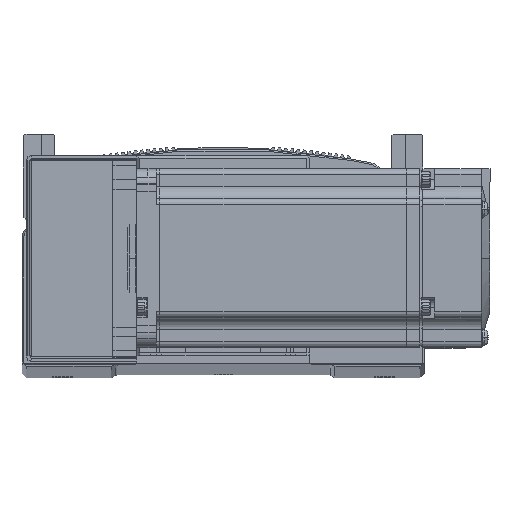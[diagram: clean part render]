
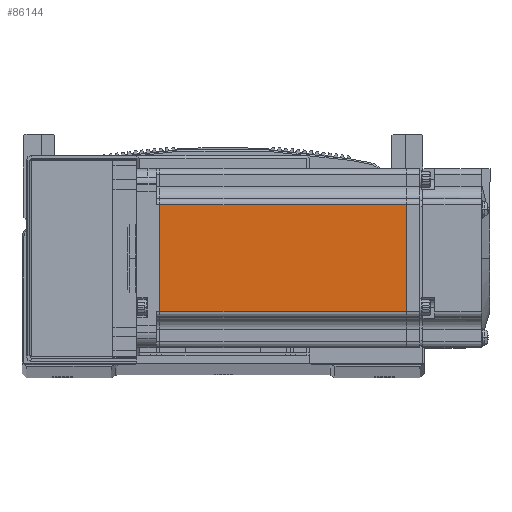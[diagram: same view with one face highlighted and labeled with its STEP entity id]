
A CAD part, top view. The second image highlights one B-rep face of the part: STEP entity #86144.
In plain terms, the highlighted planar face has unit normal (0, 0, 1) as drawn and (0, 0, -1) by its records, which use the part's own axes.
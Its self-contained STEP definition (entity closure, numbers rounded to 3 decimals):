
#2224 = AXIS2_PLACEMENT_3D ( 'NONE', #76338, #76151, #76155 ) ;
#6282 = CARTESIAN_POINT ( 'NONE',  ( -7.75, 25., -30. ) ) ;
#6350 = DIRECTION ( 'NONE',  ( 0., -1., 0. ) ) ;
#6522 = DIRECTION ( 'NONE',  ( -1., 0., 0. ) ) ;
#6539 = CARTESIAN_POINT ( 'NONE',  ( -6.5, -18., -30. ) ) ;
#7706 = VECTOR ( 'NONE', #6522, 1000. ) ;
#7708 = LINE ( 'NONE', #6539, #7706 ) ;
#7747 = LINE ( 'NONE', #6282, #7759 ) ;
#7759 = VECTOR ( 'NONE', #6350, 1000. ) ;
#7783 = LINE ( 'NONE', #73507, #7807 ) ;
#7807 = VECTOR ( 'NONE', #73584, 1000. ) ;
#7819 = VECTOR ( 'NONE', #73525, 1000. ) ;
#7823 = LINE ( 'NONE', #73619, #7819 ) ;
#9127 = EDGE_LOOP ( 'NONE', ( #45394, #45403, #45351, #45358 ) ) ;
#15742 = VERTEX_POINT ( 'NONE', #48076 ) ;
#15873 = VERTEX_POINT ( 'NONE', #48118 ) ;
#16006 = VERTEX_POINT ( 'NONE', #48147 ) ;
#16037 = VERTEX_POINT ( 'NONE', #48128 ) ;
#40572 = EDGE_CURVE ( 'NONE', #16006, #15742, #7708, .T. ) ;
#40641 = EDGE_CURVE ( 'NONE', #15873, #16006, #7747, .T. ) ;
#40702 = EDGE_CURVE ( 'NONE', #15742, #16037, #7823, .T. ) ;
#40719 = EDGE_CURVE ( 'NONE', #16037, #15873, #7783, .T. ) ;
#45351 = ORIENTED_EDGE ( 'NONE', *, *, #40702, .T. ) ;
#45358 = ORIENTED_EDGE ( 'NONE', *, *, #40719, .T. ) ;
#45394 = ORIENTED_EDGE ( 'NONE', *, *, #40641, .T. ) ;
#45403 = ORIENTED_EDGE ( 'NONE', *, *, #40572, .T. ) ;
#48076 = CARTESIAN_POINT ( 'NONE',  ( -90.45, -18., -30. ) ) ;
#48118 = CARTESIAN_POINT ( 'NONE',  ( -7.75, 18., -30. ) ) ;
#48128 = CARTESIAN_POINT ( 'NONE',  ( -90.45, 18., -30. ) ) ;
#48147 = CARTESIAN_POINT ( 'NONE',  ( -7.75, -18., -30. ) ) ;
#73507 = CARTESIAN_POINT ( 'NONE',  ( -6.5, 18., -30. ) ) ;
#73525 = DIRECTION ( 'NONE',  ( 0., 1., 0. ) ) ;
#73584 = DIRECTION ( 'NONE',  ( 1., 0., 0. ) ) ;
#73619 = CARTESIAN_POINT ( 'NONE',  ( -90.45, 25., -30. ) ) ;
#73802 = FACE_OUTER_BOUND ( 'NONE', #9127, .T. ) ;
#76151 = DIRECTION ( 'NONE',  ( 0., 0., -1. ) ) ;
#76155 = DIRECTION ( 'NONE',  ( -1., 0., 0. ) ) ;
#76320 = PLANE ( 'NONE',  #2224 ) ;
#76338 = CARTESIAN_POINT ( 'NONE',  ( -6.5, 25., -30. ) ) ;
#86144 = ADVANCED_FACE ( 'NONE', ( #73802 ), #76320, .T. ) ;
